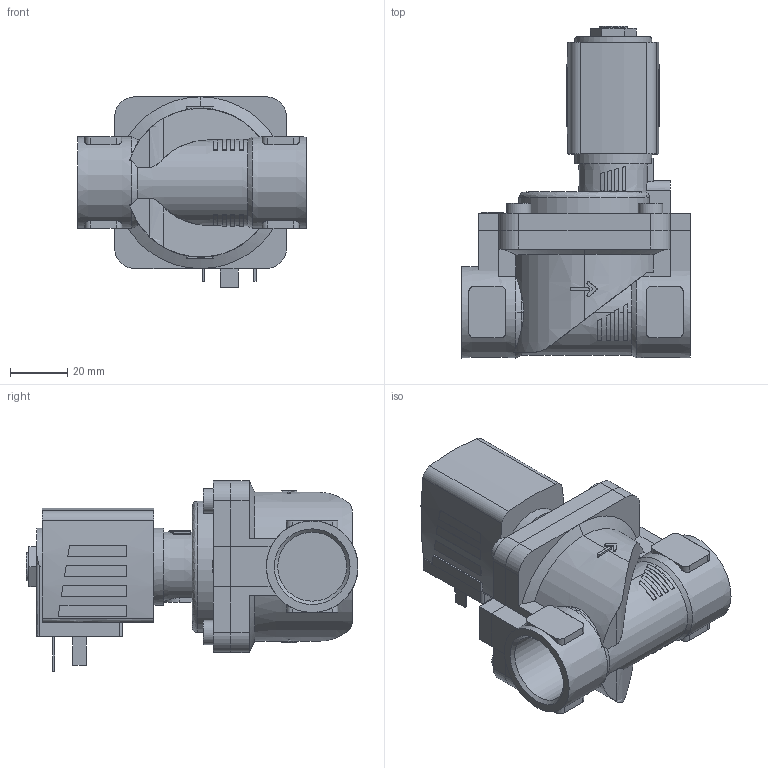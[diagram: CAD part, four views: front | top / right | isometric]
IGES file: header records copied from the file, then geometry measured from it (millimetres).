
Start section: Data from Parasolid IGES Translator 26.0.171, Copyright(c) 2006 Siemens PLM Software. All Rights Reserved.
Global section: file name: 6281-238468-2_2-Way_Solenoid_Valve__Servo-assisted__General_Purpose.igs; native system: By Siemens PLM Incorporated; preprocessor: XPlus GENERIC/IGES 26.0.171; author: Noname; organization: Noname; date: 20240527.102156; units: millimetre
Bounding box: 80 x 116 x 66.5 mm (x, y, z)
Surface area: 42239.7 mm2 (no closed solid volume)
Topology: 0 solids, 0 shells, 357 faces, 1824 edges, 1806 vertices
Faces by surface type: extrusion 233, revolution 124
